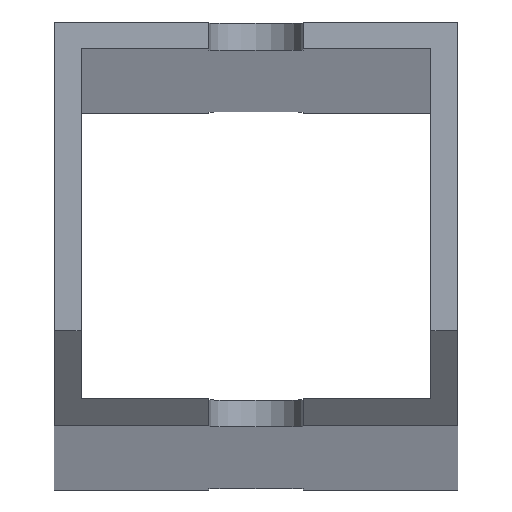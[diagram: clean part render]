
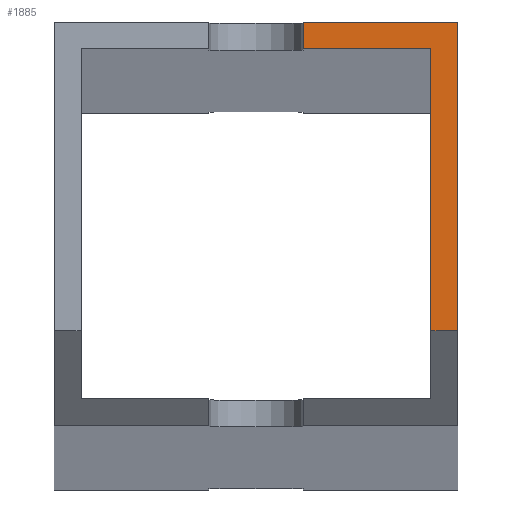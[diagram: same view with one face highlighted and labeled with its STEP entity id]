
A CAD part, top view. The second image highlights one B-rep face of the part: STEP entity #1885.
In plain terms, the highlighted planar face has unit normal (0, 0, 1).
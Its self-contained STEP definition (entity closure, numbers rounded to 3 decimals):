
#206 = PLANE('',#207);
#207 = AXIS2_PLACEMENT_3D('',#208,#209,#210);
#208 = CARTESIAN_POINT('',(-0.,-1736.576,611.216));
#209 = DIRECTION('',(0.,0.943,-0.332));
#210 = DIRECTION('',(0.,0.332,0.943));
#233 = PLANE('',#234);
#234 = AXIS2_PLACEMENT_3D('',#235,#236,#237);
#235 = CARTESIAN_POINT('',(30.,-30.,0.));
#236 = DIRECTION('',(-1.,0.,0.));
#237 = DIRECTION('',(0.,1.,0.));
#771 = PLANE('',#772);
#772 = AXIS2_PLACEMENT_3D('',#773,#774,#775);
#773 = CARTESIAN_POINT('',(26.,-26.,0.));
#774 = DIRECTION('',(-1.,0.,0.));
#775 = DIRECTION('',(0.,1.,0.));
#810 = VERTEX_POINT('',#811);
#811 = CARTESIAN_POINT('',(30.,-15.902,5499.965));
#830 = EDGE_CURVE('',#810,#831,#833,.T.);
#831 = VERTEX_POINT('',#832);
#832 = CARTESIAN_POINT('',(30.,30.,5499.965));
#833 = SURFACE_CURVE('',#834,(#838,#845),.PCURVE_S1.);
#834 = LINE('',#835,#836);
#835 = CARTESIAN_POINT('',(30.,-30.,5499.965));
#836 = VECTOR('',#837,1.);
#837 = DIRECTION('',(0.,1.,0.));
#838 = PCURVE('',#233,#839);
#839 = DEFINITIONAL_REPRESENTATION('',(#840),#844);
#840 = LINE('',#841,#842);
#841 = CARTESIAN_POINT('',(0.,-5499.965));
#842 = VECTOR('',#843,1.);
#843 = DIRECTION('',(1.,0.));
#844 = ( GEOMETRIC_REPRESENTATION_CONTEXT(2) 
PARAMETRIC_REPRESENTATION_CONTEXT() REPRESENTATION_CONTEXT('2D SPACE',''
  ) );
#845 = PCURVE('',#846,#851);
#846 = PLANE('',#847);
#847 = AXIS2_PLACEMENT_3D('',#848,#849,#850);
#848 = CARTESIAN_POINT('',(0.,0.,5499.965));
#849 = DIRECTION('',(0.,0.,1.));
#850 = DIRECTION('',(1.,0.,-0.));
#851 = DEFINITIONAL_REPRESENTATION('',(#852),#856);
#852 = LINE('',#853,#854);
#853 = CARTESIAN_POINT('',(30.,-30.));
#854 = VECTOR('',#855,1.);
#855 = DIRECTION('',(0.,1.));
#856 = ( GEOMETRIC_REPRESENTATION_CONTEXT(2) 
PARAMETRIC_REPRESENTATION_CONTEXT() REPRESENTATION_CONTEXT('2D SPACE',''
  ) );
#874 = PLANE('',#875);
#875 = AXIS2_PLACEMENT_3D('',#876,#877,#878);
#876 = CARTESIAN_POINT('',(30.,30.,0.));
#877 = DIRECTION('',(0.,-1.,0.));
#878 = DIRECTION('',(-1.,0.,0.));
#908 = EDGE_CURVE('',#810,#909,#911,.T.);
#909 = VERTEX_POINT('',#910);
#910 = CARTESIAN_POINT('',(26.,-15.902,5499.965));
#911 = SURFACE_CURVE('',#912,(#916,#922),.PCURVE_S1.);
#912 = LINE('',#913,#914);
#913 = CARTESIAN_POINT('',(0.,-15.902,5499.965));
#914 = VECTOR('',#915,1.);
#915 = DIRECTION('',(-1.,0.,0.));
#916 = PCURVE('',#206,#917);
#917 = DEFINITIONAL_REPRESENTATION('',(#918),#921);
#918 = B_SPLINE_CURVE_WITH_KNOTS('',1,(#919,#920),.UNSPECIFIED.,.F.,.F.,
  (2,2),(-30.,30.),.PIECEWISE_BEZIER_KNOTS.);
#919 = CARTESIAN_POINT('',(5182.721,30.));
#920 = CARTESIAN_POINT('',(5182.721,-30.));
#921 = ( GEOMETRIC_REPRESENTATION_CONTEXT(2) 
PARAMETRIC_REPRESENTATION_CONTEXT() REPRESENTATION_CONTEXT('2D SPACE',''
  ) );
#922 = PCURVE('',#846,#923);
#923 = DEFINITIONAL_REPRESENTATION('',(#924),#927);
#924 = B_SPLINE_CURVE_WITH_KNOTS('',1,(#925,#926),.UNSPECIFIED.,.F.,.F.,
  (2,2),(-30.,30.),.PIECEWISE_BEZIER_KNOTS.);
#925 = CARTESIAN_POINT('',(30.,-15.902));
#926 = CARTESIAN_POINT('',(-30.,-15.902));
#927 = ( GEOMETRIC_REPRESENTATION_CONTEXT(2) 
PARAMETRIC_REPRESENTATION_CONTEXT() REPRESENTATION_CONTEXT('2D SPACE',''
  ) );
#1317 = PLANE('',#1318);
#1318 = AXIS2_PLACEMENT_3D('',#1319,#1320,#1321);
#1319 = CARTESIAN_POINT('',(26.,26.,0.));
#1320 = DIRECTION('',(0.,-1.,0.));
#1321 = DIRECTION('',(-1.,0.,0.));
#1507 = EDGE_CURVE('',#909,#1508,#1510,.T.);
#1508 = VERTEX_POINT('',#1509);
#1509 = CARTESIAN_POINT('',(26.,26.,5499.965));
#1510 = SURFACE_CURVE('',#1511,(#1515,#1522),.PCURVE_S1.);
#1511 = LINE('',#1512,#1513);
#1512 = CARTESIAN_POINT('',(26.,-26.,5499.965));
#1513 = VECTOR('',#1514,1.);
#1514 = DIRECTION('',(0.,1.,0.));
#1515 = PCURVE('',#771,#1516);
#1516 = DEFINITIONAL_REPRESENTATION('',(#1517),#1521);
#1517 = LINE('',#1518,#1519);
#1518 = CARTESIAN_POINT('',(0.,-5499.965));
#1519 = VECTOR('',#1520,1.);
#1520 = DIRECTION('',(1.,0.));
#1521 = ( GEOMETRIC_REPRESENTATION_CONTEXT(2) 
PARAMETRIC_REPRESENTATION_CONTEXT() REPRESENTATION_CONTEXT('2D SPACE',''
  ) );
#1522 = PCURVE('',#846,#1523);
#1523 = DEFINITIONAL_REPRESENTATION('',(#1524),#1528);
#1524 = LINE('',#1525,#1526);
#1525 = CARTESIAN_POINT('',(26.,-26.));
#1526 = VECTOR('',#1527,1.);
#1527 = DIRECTION('',(0.,1.));
#1528 = ( GEOMETRIC_REPRESENTATION_CONTEXT(2) 
PARAMETRIC_REPRESENTATION_CONTEXT() REPRESENTATION_CONTEXT('2D SPACE',''
  ) );
#1649 = EDGE_CURVE('',#831,#1650,#1652,.T.);
#1650 = VERTEX_POINT('',#1651);
#1651 = CARTESIAN_POINT('',(7.,30.,5499.965));
#1652 = SURFACE_CURVE('',#1653,(#1657,#1664),.PCURVE_S1.);
#1653 = LINE('',#1654,#1655);
#1654 = CARTESIAN_POINT('',(30.,30.,5499.965));
#1655 = VECTOR('',#1656,1.);
#1656 = DIRECTION('',(-1.,0.,0.));
#1657 = PCURVE('',#874,#1658);
#1658 = DEFINITIONAL_REPRESENTATION('',(#1659),#1663);
#1659 = LINE('',#1660,#1661);
#1660 = CARTESIAN_POINT('',(0.,-5499.965));
#1661 = VECTOR('',#1662,1.);
#1662 = DIRECTION('',(1.,0.));
#1663 = ( GEOMETRIC_REPRESENTATION_CONTEXT(2) 
PARAMETRIC_REPRESENTATION_CONTEXT() REPRESENTATION_CONTEXT('2D SPACE',''
  ) );
#1664 = PCURVE('',#846,#1665);
#1665 = DEFINITIONAL_REPRESENTATION('',(#1666),#1670);
#1666 = LINE('',#1667,#1668);
#1667 = CARTESIAN_POINT('',(30.,30.));
#1668 = VECTOR('',#1669,1.);
#1669 = DIRECTION('',(-1.,0.));
#1670 = ( GEOMETRIC_REPRESENTATION_CONTEXT(2) 
PARAMETRIC_REPRESENTATION_CONTEXT() REPRESENTATION_CONTEXT('2D SPACE',''
  ) );
#1687 = PLANE('',#1688);
#1688 = AXIS2_PLACEMENT_3D('',#1689,#1690,#1691);
#1689 = CARTESIAN_POINT('',(7.,-40.,5379.965));
#1690 = DIRECTION('',(1.,0.,-0.));
#1691 = DIRECTION('',(0.,0.,1.));
#1885 = ADVANCED_FACE('',(#1886),#846,.T.);
#1886 = FACE_BOUND('',#1887,.T.);
#1887 = EDGE_LOOP('',(#1888,#1889,#1910,#1931,#1932,#1933));
#1888 = ORIENTED_EDGE('',*,*,#1649,.T.);
#1889 = ORIENTED_EDGE('',*,*,#1890,.F.);
#1890 = EDGE_CURVE('',#1891,#1650,#1893,.T.);
#1891 = VERTEX_POINT('',#1892);
#1892 = CARTESIAN_POINT('',(7.,26.,5499.965));
#1893 = SURFACE_CURVE('',#1894,(#1898,#1904),.PCURVE_S1.);
#1894 = LINE('',#1895,#1896);
#1895 = CARTESIAN_POINT('',(7.,-20.,5499.965));
#1896 = VECTOR('',#1897,1.);
#1897 = DIRECTION('',(-0.,1.,0.));
#1898 = PCURVE('',#846,#1899);
#1899 = DEFINITIONAL_REPRESENTATION('',(#1900),#1903);
#1900 = B_SPLINE_CURVE_WITH_KNOTS('',1,(#1901,#1902),.UNSPECIFIED.,.F.,
  .F.,(2,2),(4.098,50.),.PIECEWISE_BEZIER_KNOTS.);
#1901 = CARTESIAN_POINT('',(7.,-15.902));
#1902 = CARTESIAN_POINT('',(7.,30.));
#1903 = ( GEOMETRIC_REPRESENTATION_CONTEXT(2) 
PARAMETRIC_REPRESENTATION_CONTEXT() REPRESENTATION_CONTEXT('2D SPACE',''
  ) );
#1904 = PCURVE('',#1687,#1905);
#1905 = DEFINITIONAL_REPRESENTATION('',(#1906),#1909);
#1906 = B_SPLINE_CURVE_WITH_KNOTS('',1,(#1907,#1908),.UNSPECIFIED.,.F.,
  .F.,(2,2),(4.098,50.),.PIECEWISE_BEZIER_KNOTS.);
#1907 = CARTESIAN_POINT('',(120.,-24.098));
#1908 = CARTESIAN_POINT('',(120.,-70.));
#1909 = ( GEOMETRIC_REPRESENTATION_CONTEXT(2) 
PARAMETRIC_REPRESENTATION_CONTEXT() REPRESENTATION_CONTEXT('2D SPACE',''
  ) );
#1910 = ORIENTED_EDGE('',*,*,#1911,.F.);
#1911 = EDGE_CURVE('',#1508,#1891,#1912,.T.);
#1912 = SURFACE_CURVE('',#1913,(#1917,#1924),.PCURVE_S1.);
#1913 = LINE('',#1914,#1915);
#1914 = CARTESIAN_POINT('',(26.,26.,5499.965));
#1915 = VECTOR('',#1916,1.);
#1916 = DIRECTION('',(-1.,0.,0.));
#1917 = PCURVE('',#846,#1918);
#1918 = DEFINITIONAL_REPRESENTATION('',(#1919),#1923);
#1919 = LINE('',#1920,#1921);
#1920 = CARTESIAN_POINT('',(26.,26.));
#1921 = VECTOR('',#1922,1.);
#1922 = DIRECTION('',(-1.,0.));
#1923 = ( GEOMETRIC_REPRESENTATION_CONTEXT(2) 
PARAMETRIC_REPRESENTATION_CONTEXT() REPRESENTATION_CONTEXT('2D SPACE',''
  ) );
#1924 = PCURVE('',#1317,#1925);
#1925 = DEFINITIONAL_REPRESENTATION('',(#1926),#1930);
#1926 = LINE('',#1927,#1928);
#1927 = CARTESIAN_POINT('',(0.,-5499.965));
#1928 = VECTOR('',#1929,1.);
#1929 = DIRECTION('',(1.,0.));
#1930 = ( GEOMETRIC_REPRESENTATION_CONTEXT(2) 
PARAMETRIC_REPRESENTATION_CONTEXT() REPRESENTATION_CONTEXT('2D SPACE',''
  ) );
#1931 = ORIENTED_EDGE('',*,*,#1507,.F.);
#1932 = ORIENTED_EDGE('',*,*,#908,.F.);
#1933 = ORIENTED_EDGE('',*,*,#830,.T.);
